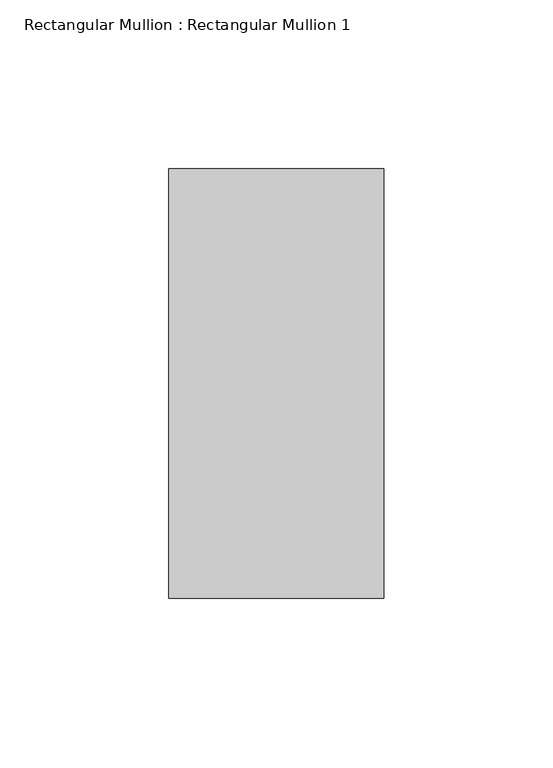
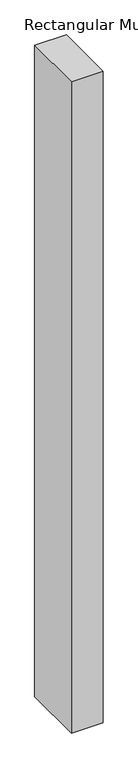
"""IFC4 building model written with IfcOpenShell, lengths in millimetres: member geometry, Rectangular Mullion : Rectangular Mullion 1."""

import ifcopenshell
import ifcopenshell.guid

model = None  # the IFC model being written
_history = None  # IfcOwnerHistory: only IFC2X3 demands one
_inside = {}  # id of a spatial element -> (the spatial element, [elements in it])
_under = {}  # id of a project, library or spatial element -> (it, [spatial elements below it])
_declared = {}  # id of a project -> (the project, [libraries it declares])
_typed = {}  # id of a type object -> (the type object, [elements of that type])
_made_of = {}  # id of a material, layer set ... -> (it, [elements and type objects made of it])


def new_model(schema):
    """Start an empty IFC model of exactly this schema.

    Asked for "IFC4X3", IfcOpenShell would pick the latest addendum, in which some entities
    have other attributes; the version numbers below select the first issue.
    IFC2X3 requires an IfcOwnerHistory on every rooted entity: one is made here for all.
    """
    global model, _history
    if schema == "IFC4X3":
        model = ifcopenshell.file(schema_version=(4, 3, 0, 0))
    else:
        model = ifcopenshell.file(schema=schema)
    _inside.clear()
    _under.clear()
    _declared.clear()
    _typed.clear()
    _made_of.clear()
    _history = None
    if model.schema == "IFC2X3":
        org = make("IfcOrganization", Name="unknown")
        user = make(
            "IfcPersonAndOrganization",
            ThePerson=make("IfcPerson", FamilyName="unknown"),
            TheOrganization=org,
        )
        app = make(
            "IfcApplication",
            ApplicationDeveloper=org,
            Version="unknown",
            ApplicationFullName="unknown",
            ApplicationIdentifier="unknown",
        )
        _history = make(
            "IfcOwnerHistory",
            OwningUser=user,
            OwningApplication=app,
            ChangeAction="ADDED",
            CreationDate=0,
        )
    return model


def make(cls, **values):
    """One entity of the class cls with the attributes given. An attribute that is None is left unset."""
    return model.create_entity(
        cls, **{name: value for name, value in values.items() if value is not None}
    )


def rooted(cls, **values):
    """An entity with a GlobalId (a new one), such as an element, a storey or a relation."""
    return make(cls, GlobalId=ifcopenshell.guid.new(), OwnerHistory=_history, **values)


def si_unit(unit_type, name, prefix=None):
    """IfcSIUnit, for example si_unit("LENGTHUNIT", "METRE", prefix="MILLI")."""
    return make("IfcSIUnit", UnitType=unit_type, Prefix=prefix, Name=name)


def assignment(units):
    """IfcUnitAssignment: the units of a project."""
    return None if units is None else make("IfcUnitAssignment", Units=units)


def point(xyz):
    """IfcCartesianPoint."""
    return None if xyz is None else make("IfcCartesianPoint", Coordinates=xyz)


def direction(xyz):
    """IfcDirection."""
    return None if xyz is None else make("IfcDirection", DirectionRatios=xyz)


def frame(location, z_axis=None, x_axis=None):
    """IfcAxis2Placement3D, a coordinate frame: its origin and axes. An axis left out is left unset."""
    return make(
        "IfcAxis2Placement3D",
        Location=point(location),
        Axis=direction(z_axis),
        RefDirection=direction(x_axis),
    )


def origin():
    """The frame at (0, 0, 0) with its axes left unset."""
    return frame((0.0, 0.0, 0.0))


def place(relative_to, where):
    """IfcLocalPlacement: puts the frame where relative to a parent placement (None: the world)."""
    return make(
        "IfcLocalPlacement", PlacementRelTo=relative_to, RelativePlacement=where
    )


def context(
    kind, dimensions, precision=None, world=None, true_north=None, identifier=None
):
    """IfcGeometricRepresentationContext, for example the 3D "Model" context."""
    return make(
        "IfcGeometricRepresentationContext",
        ContextIdentifier=identifier,
        ContextType=kind,
        CoordinateSpaceDimension=dimensions,
        Precision=precision,
        WorldCoordinateSystem=world,
        TrueNorth=true_north,
    )


def project(units=None, contexts=None):
    """IfcProject with its units and contexts."""
    return rooted(
        "IfcProject",
        Name="project",
        RepresentationContexts=contexts,
        UnitsInContext=assignment(units),
    )


def spatial(cls, under=None, at=None, **own):
    """A site, building, storey or space (cls), placed at a placement, below another one or the project."""
    s = rooted(cls, ObjectPlacement=at, **own)
    if under is not None:
        _under.setdefault(under.id(), (under, []))[1].append(s)
    return s


def polyline(points):
    """IfcPolyline through the points."""
    return make("IfcPolyline", Points=[point(p) for p in points])


def outline(outer, holes=None, kind="AREA"):
    """IfcArbitraryClosedProfileDef: a profile drawn as a closed curve; with holes, ...WithVoids."""
    if holes is None:
        return make("IfcArbitraryClosedProfileDef", ProfileType=kind, OuterCurve=outer)
    return make(
        "IfcArbitraryProfileDefWithVoids",
        ProfileType=kind,
        OuterCurve=outer,
        InnerCurves=holes,
    )


def extrude(swept, where, along, depth):
    """IfcExtrudedAreaSolid: the profile swept, set in the frame where, extruded along a direction by depth."""
    return make(
        "IfcExtrudedAreaSolid",
        SweptArea=swept,
        Position=where,
        ExtrudedDirection=direction(along),
        Depth=depth,
    )


def shape(context_of_items, identifier, shape_type, items):
    """IfcShapeRepresentation: the items that make up one representation, for example the "Body"."""
    return make(
        "IfcShapeRepresentation",
        ContextOfItems=context_of_items,
        RepresentationIdentifier=identifier,
        RepresentationType=shape_type,
        Items=items,
    )


def source(mapping_origin, context_of_items, identifier, shape_type, items):
    """IfcRepresentationMap: a shape defined once, which mapped items show again and again."""
    return make(
        "IfcRepresentationMap",
        MappingOrigin=mapping_origin,
        MappedRepresentation=shape(context_of_items, identifier, shape_type, items),
    )


def transform(
    local_origin,
    x_axis=None,
    y_axis=None,
    z_axis=None,
    scale=None,
    scale2=None,
    scale3=None,
    uniform=True,
):
    """IfcCartesianTransformationOperator3D, or its non-uniform kind. x_axis, y_axis, z_axis: its Axis1, 2, 3."""
    if uniform:
        return make(
            "IfcCartesianTransformationOperator3D",
            Axis1=direction(x_axis),
            Axis2=direction(y_axis),
            LocalOrigin=point(local_origin),
            Scale=scale,
            Axis3=direction(z_axis),
        )
    return make(
        "IfcCartesianTransformationOperator3DnonUniform",
        Axis1=direction(x_axis),
        Axis2=direction(y_axis),
        LocalOrigin=point(local_origin),
        Scale=scale,
        Axis3=direction(z_axis),
        Scale2=scale2,
        Scale3=scale3,
    )


def mapped(mapping_source, mapping_target):
    """IfcMappedItem: shows the shape of a source again, moved by a transform."""
    return make(
        "IfcMappedItem", MappingSource=mapping_source, MappingTarget=mapping_target
    )


def made_of(thing, what):
    """Note that an element or type object is made of a material, layer set ...; save() writes the relation."""
    if what is not None:
        _made_of.setdefault(what.id(), (what, []))[1].append(thing)
    return thing


def element(
    cls,
    number,
    at=None,
    inside=None,
    cuts=None,
    type_object=None,
    material=None,
    context=None,
    identifier="Body",
    shape_type=None,
    held_by="IfcProductDefinitionShape",
    body=None,
    shapes=None,
    **own,
):
    """One element of the class cls, such as IfcWall. Its Tag is "e" and its number.

    at: its placement. inside: the storey or other place that contains it. cuts: it is an
    opening in that element (IfcRelVoidsElement). A single representation is given by context,
    identifier, shape_type and body (its items); several are given by shapes. held_by: the class
    of the entity that holds the representations. save() writes the other relations.
    """
    e = rooted(cls, Tag="e%d" % number, ObjectPlacement=at, **own)
    if body is not None:
        shapes = [shape(context, identifier, shape_type, body)]
    if shapes is not None:
        e.Representation = make(held_by, Representations=shapes)
    if inside is not None:
        _inside.setdefault(inside.id(), (inside, []))[1].append(e)
    if cuts is not None:
        rooted(
            "IfcRelVoidsElement", RelatingBuildingElement=cuts, RelatedOpeningElement=e
        )
    if type_object is not None:
        _typed.setdefault(type_object.id(), (type_object, []))[1].append(e)
    return made_of(e, material)


def aggregate(whole, parts):
    """IfcRelAggregates: a whole, such as a stair, and the parts it consists of."""
    return rooted("IfcRelAggregates", RelatingObject=whole, RelatedObjects=parts)


def save(model, path):
    """Write the relations noted so far, then the file.

    IfcRelAggregates (storeys below a building ...), IfcRelContainedInSpatialStructure (elements
    in a storey), IfcRelDefinesByType, IfcRelAssociatesMaterial and IfcRelDeclares: one each for
    every whole, place, type object, material and project.
    """
    for whole, parts in _under.values():
        aggregate(whole, parts)
    for where, things in _inside.values():
        rooted(
            "IfcRelContainedInSpatialStructure",
            RelatedElements=things,
            RelatingStructure=where,
        )
    for kind, things in _typed.values():
        rooted("IfcRelDefinesByType", RelatedObjects=things, RelatingType=kind)
    for what, things in _made_of.values():
        rooted("IfcRelAssociatesMaterial", RelatedObjects=things, RelatingMaterial=what)
    for by, libraries in _declared.values():
        rooted("IfcRelDeclares", RelatingContext=by, RelatedDefinitions=libraries)
    model.write(path)


def rectangular_mullion_rectangular_mullion_1_a703f887(model_context):
    return source(origin(), model_context, "Body", "SweptSolid", [
        extrude(outline(polyline([(0.0, 63.5), (0.0, -63.5), (-63.5, -63.5), (-63.5, 63.5), (0.0, 63.5)])), frame((0.0, 0.0, -1376.4999999), z_axis=(0.0, 0.0, 1.0), x_axis=(1.0, 0.0, 0.0)), (0.0, 0.0, 1.0), 1376.4999999),
    ])


if __name__ == "__main__":
    model = new_model("IFC4")
    model_context = context("Model", 3, world=origin())
    ifc_project = project(units=[si_unit("LENGTHUNIT", "METRE", prefix="MILLI")], contexts=[model_context])
    site = spatial("IfcSite", under=ifc_project)
    building = spatial("IfcBuilding", under=site)
    placement = place(None, origin())
    rectangular_mullion_rectangular_mullion_1_shape = rectangular_mullion_rectangular_mullion_1_a703f887(model_context)
    element("IfcMember", 1, ObjectType="Rectangular Mullion : Rectangular Mullion 1", at=placement, inside=building, context=model_context, shape_type="MappedRepresentation", body=[
        mapped(rectangular_mullion_rectangular_mullion_1_shape, transform((0.0, 0.0, 0.0), x_axis=(1.0, 0.0, 0.0), y_axis=(0.0, 1.0, 0.0), z_axis=(0.0, 0.0, 1.0))),
    ])
    save(model, "model.ifc")
